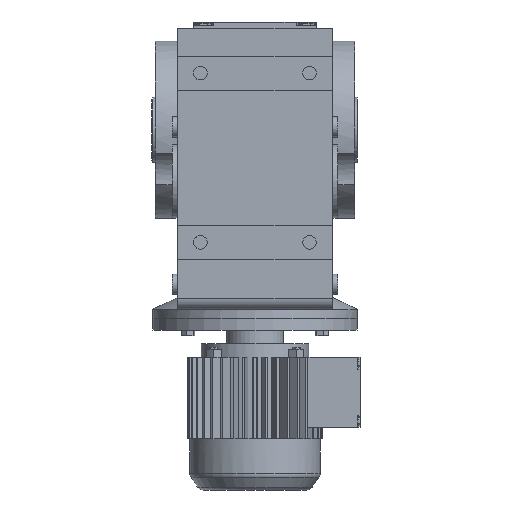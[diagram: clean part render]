
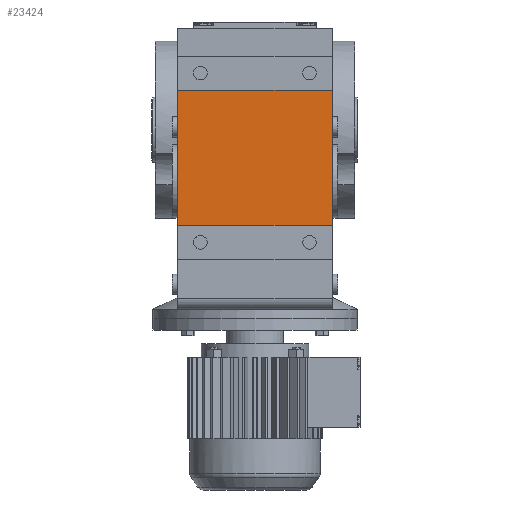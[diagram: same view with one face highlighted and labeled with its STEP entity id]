
A CAD part, front view. The second image highlights one B-rep face of the part: STEP entity #23424.
In plain terms, the highlighted planar face has unit normal (0, -1, 0).
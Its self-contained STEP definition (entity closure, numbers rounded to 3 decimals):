
#4581 = PLANE('',#4582);
#4582 = AXIS2_PLACEMENT_3D('',#4583,#4584,#4585);
#4583 = CARTESIAN_POINT('',(-113.,-239.725,-247.15));
#4584 = DIRECTION('',(-1.,0.,0.));
#4585 = DIRECTION('',(0.,0.,1.));
#4716 = PLANE('',#4717);
#4717 = AXIS2_PLACEMENT_3D('',#4718,#4719,#4720);
#4718 = CARTESIAN_POINT('',(113.,-239.725,-247.15));
#4719 = DIRECTION('',(-1.,0.,0.));
#4720 = DIRECTION('',(0.,0.,1.));
#11179 = VERTEX_POINT('',#11180);
#11180 = CARTESIAN_POINT('',(113.,-255.725,58.));
#11194 = PLANE('',#11195);
#11195 = AXIS2_PLACEMENT_3D('',#11196,#11197,#11198);
#11196 = CARTESIAN_POINT('',(-113.,-255.725,58.));
#11197 = DIRECTION('',(0.,0.,-1.));
#11198 = DIRECTION('',(-1.,0.,0.));
#11206 = EDGE_CURVE('',#11179,#11207,#11209,.T.);
#11207 = VERTEX_POINT('',#11208);
#11208 = CARTESIAN_POINT('',(113.,-255.725,-140.));
#11209 = SURFACE_CURVE('',#11210,(#11214,#11221),.PCURVE_S1.);
#11210 = LINE('',#11211,#11212);
#11211 = CARTESIAN_POINT('',(113.,-255.725,58.));
#11212 = VECTOR('',#11213,1.);
#11213 = DIRECTION('',(0.,0.,-1.));
#11214 = PCURVE('',#4716,#11215);
#11215 = DEFINITIONAL_REPRESENTATION('',(#11216),#11220);
#11216 = LINE('',#11217,#11218);
#11217 = CARTESIAN_POINT('',(305.15,-16.));
#11218 = VECTOR('',#11219,1.);
#11219 = DIRECTION('',(-1.,0.));
#11220 = ( GEOMETRIC_REPRESENTATION_CONTEXT(2) 
PARAMETRIC_REPRESENTATION_CONTEXT() REPRESENTATION_CONTEXT('2D SPACE',''
  ) );
#11221 = PCURVE('',#11222,#11227);
#11222 = PLANE('',#11223);
#11223 = AXIS2_PLACEMENT_3D('',#11224,#11225,#11226);
#11224 = CARTESIAN_POINT('',(-113.,-255.725,58.));
#11225 = DIRECTION('',(0.,-1.,0.));
#11226 = DIRECTION('',(0.,0.,-1.));
#11227 = DEFINITIONAL_REPRESENTATION('',(#11228),#11232);
#11228 = LINE('',#11229,#11230);
#11229 = CARTESIAN_POINT('',(0.,226.));
#11230 = VECTOR('',#11231,1.);
#11231 = DIRECTION('',(1.,0.));
#11232 = ( GEOMETRIC_REPRESENTATION_CONTEXT(2) 
PARAMETRIC_REPRESENTATION_CONTEXT() REPRESENTATION_CONTEXT('2D SPACE',''
  ) );
#11250 = PLANE('',#11251);
#11251 = AXIS2_PLACEMENT_3D('',#11252,#11253,#11254);
#11252 = CARTESIAN_POINT('',(-113.,-255.725,-140.));
#11253 = DIRECTION('',(0.,0.,1.));
#11254 = DIRECTION('',(0.,-1.,0.));
#12217 = VERTEX_POINT('',#12218);
#12218 = CARTESIAN_POINT('',(-113.,-255.725,-140.));
#12239 = EDGE_CURVE('',#12240,#12217,#12242,.T.);
#12240 = VERTEX_POINT('',#12241);
#12241 = CARTESIAN_POINT('',(-113.,-255.725,58.));
#12242 = SURFACE_CURVE('',#12243,(#12247,#12254),.PCURVE_S1.);
#12243 = LINE('',#12244,#12245);
#12244 = CARTESIAN_POINT('',(-113.,-255.725,58.));
#12245 = VECTOR('',#12246,1.);
#12246 = DIRECTION('',(0.,0.,-1.));
#12247 = PCURVE('',#4581,#12248);
#12248 = DEFINITIONAL_REPRESENTATION('',(#12249),#12253);
#12249 = LINE('',#12250,#12251);
#12250 = CARTESIAN_POINT('',(305.15,-16.));
#12251 = VECTOR('',#12252,1.);
#12252 = DIRECTION('',(-1.,0.));
#12253 = ( GEOMETRIC_REPRESENTATION_CONTEXT(2) 
PARAMETRIC_REPRESENTATION_CONTEXT() REPRESENTATION_CONTEXT('2D SPACE',''
  ) );
#12254 = PCURVE('',#11222,#12255);
#12255 = DEFINITIONAL_REPRESENTATION('',(#12256),#12260);
#12256 = LINE('',#12257,#12258);
#12257 = CARTESIAN_POINT('',(0.,0.));
#12258 = VECTOR('',#12259,1.);
#12259 = DIRECTION('',(1.,0.));
#12260 = ( GEOMETRIC_REPRESENTATION_CONTEXT(2) 
PARAMETRIC_REPRESENTATION_CONTEXT() REPRESENTATION_CONTEXT('2D SPACE',''
  ) );
#22907 = EDGE_CURVE('',#12240,#11179,#22908,.T.);
#22908 = SURFACE_CURVE('',#22909,(#22913,#22920),.PCURVE_S1.);
#22909 = LINE('',#22910,#22911);
#22910 = CARTESIAN_POINT('',(-113.,-255.725,58.));
#22911 = VECTOR('',#22912,1.);
#22912 = DIRECTION('',(1.,0.,0.));
#22913 = PCURVE('',#11194,#22914);
#22914 = DEFINITIONAL_REPRESENTATION('',(#22915),#22919);
#22915 = LINE('',#22916,#22917);
#22916 = CARTESIAN_POINT('',(0.,0.));
#22917 = VECTOR('',#22918,1.);
#22918 = DIRECTION('',(-1.,0.));
#22919 = ( GEOMETRIC_REPRESENTATION_CONTEXT(2) 
PARAMETRIC_REPRESENTATION_CONTEXT() REPRESENTATION_CONTEXT('2D SPACE',''
  ) );
#22920 = PCURVE('',#11222,#22921);
#22921 = DEFINITIONAL_REPRESENTATION('',(#22922),#22926);
#22922 = LINE('',#22923,#22924);
#22923 = CARTESIAN_POINT('',(0.,0.));
#22924 = VECTOR('',#22925,1.);
#22925 = DIRECTION('',(0.,1.));
#22926 = ( GEOMETRIC_REPRESENTATION_CONTEXT(2) 
PARAMETRIC_REPRESENTATION_CONTEXT() REPRESENTATION_CONTEXT('2D SPACE',''
  ) );
#23396 = EDGE_CURVE('',#12217,#11207,#23397,.T.);
#23397 = SURFACE_CURVE('',#23398,(#23402,#23409),.PCURVE_S1.);
#23398 = LINE('',#23399,#23400);
#23399 = CARTESIAN_POINT('',(-113.,-255.725,-140.));
#23400 = VECTOR('',#23401,1.);
#23401 = DIRECTION('',(1.,0.,0.));
#23402 = PCURVE('',#11250,#23403);
#23403 = DEFINITIONAL_REPRESENTATION('',(#23404),#23408);
#23404 = LINE('',#23405,#23406);
#23405 = CARTESIAN_POINT('',(0.,0.));
#23406 = VECTOR('',#23407,1.);
#23407 = DIRECTION('',(0.,1.));
#23408 = ( GEOMETRIC_REPRESENTATION_CONTEXT(2) 
PARAMETRIC_REPRESENTATION_CONTEXT() REPRESENTATION_CONTEXT('2D SPACE',''
  ) );
#23409 = PCURVE('',#11222,#23410);
#23410 = DEFINITIONAL_REPRESENTATION('',(#23411),#23415);
#23411 = LINE('',#23412,#23413);
#23412 = CARTESIAN_POINT('',(198.,0.));
#23413 = VECTOR('',#23414,1.);
#23414 = DIRECTION('',(0.,1.));
#23415 = ( GEOMETRIC_REPRESENTATION_CONTEXT(2) 
PARAMETRIC_REPRESENTATION_CONTEXT() REPRESENTATION_CONTEXT('2D SPACE',''
  ) );
#23424 = ADVANCED_FACE('',(#23425),#11222,.T.);
#23425 = FACE_BOUND('',#23426,.T.);
#23426 = EDGE_LOOP('',(#23427,#23428,#23429,#23430));
#23427 = ORIENTED_EDGE('',*,*,#23396,.T.);
#23428 = ORIENTED_EDGE('',*,*,#11206,.F.);
#23429 = ORIENTED_EDGE('',*,*,#22907,.F.);
#23430 = ORIENTED_EDGE('',*,*,#12239,.T.);
